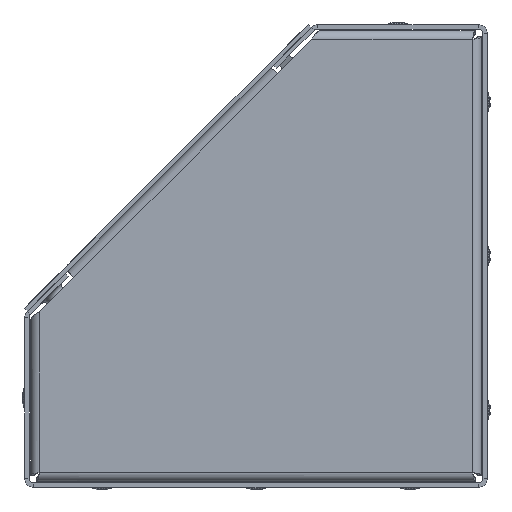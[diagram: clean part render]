
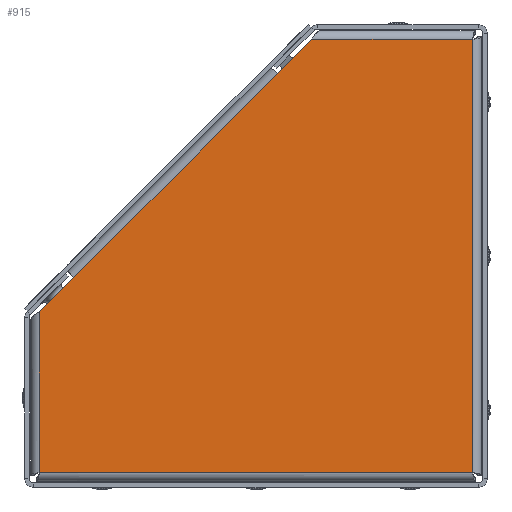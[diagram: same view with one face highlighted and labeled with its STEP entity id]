
A CAD part, left-side view. The second image highlights one B-rep face of the part: STEP entity #915.
In plain terms, the highlighted planar face has unit normal (-1, 0, 0) as drawn and (1, 0, 0) by its records, which use the part's own axes.
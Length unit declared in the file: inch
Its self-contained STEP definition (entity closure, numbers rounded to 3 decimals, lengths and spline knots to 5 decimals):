
#53 = DIRECTION ( 'NONE',  ( 0., -0.707, 0.707 ) ) ;
#69 = DIRECTION ( 'NONE',  ( 0., 0., -1. ) ) ;
#168 = VERTEX_POINT ( 'NONE', #1986 ) ;
#202 = PLANE ( 'NONE',  #9557 ) ;
#208 = EDGE_CURVE ( 'NONE', #9694, #168, #4417, .T. ) ;
#825 = ORIENTED_EDGE ( 'NONE', *, *, #8920, .T. ) ;
#915 = ADVANCED_FACE ( 'NONE', ( #7280 ), #202, .T. ) ;
#1064 = DIRECTION ( 'NONE',  ( 1., 0., 0. ) ) ;
#1070 = VERTEX_POINT ( 'NONE', #2967 ) ;
#1072 = VERTEX_POINT ( 'NONE', #8852 ) ;
#1197 = LINE ( 'NONE', #5761, #5469 ) ;
#1839 = VECTOR ( 'NONE', #7372, 39.37008 ) ;
#1986 = CARTESIAN_POINT ( 'NONE',  ( 0., 5.62, -5.62 ) ) ;
#2308 = CARTESIAN_POINT ( 'NONE',  ( 0., 5.62, -3.53199 ) ) ;
#2564 = ORIENTED_EDGE ( 'NONE', *, *, #9637, .T. ) ;
#2967 = CARTESIAN_POINT ( 'NONE',  ( 0., 5.17275, -3.08474 ) ) ;
#3008 = ORIENTED_EDGE ( 'NONE', *, *, #3470, .T. ) ;
#3046 = ORIENTED_EDGE ( 'NONE', *, *, #5643, .T. ) ;
#3193 = DIRECTION ( 'NONE',  ( 0., -1., 0. ) ) ;
#3442 = VECTOR ( 'NONE', #5054, 39.37008 ) ;
#3470 = EDGE_CURVE ( 'NONE', #4473, #9694, #7746, .T. ) ;
#3493 = VERTEX_POINT ( 'NONE', #5056 ) ;
#3558 = VERTEX_POINT ( 'NONE', #8623 ) ;
#3923 = DIRECTION ( 'NONE',  ( 0., 0., 1. ) ) ;
#4067 = DIRECTION ( 'NONE',  ( 0., 1., 0. ) ) ;
#4417 = LINE ( 'NONE', #8239, #8613 ) ;
#4447 = ORIENTED_EDGE ( 'NONE', *, *, #9149, .T. ) ;
#4473 = VERTEX_POINT ( 'NONE', #8067 ) ;
#5054 = DIRECTION ( 'NONE',  ( 0., -0.707, 0.707 ) ) ;
#5056 = CARTESIAN_POINT ( 'NONE',  ( 0., 2.53526, -0.44725 ) ) ;
#5469 = VECTOR ( 'NONE', #3193, 39.37008 ) ;
#5538 = ORIENTED_EDGE ( 'NONE', *, *, #7006, .T. ) ;
#5643 = EDGE_CURVE ( 'NONE', #3493, #3558, #10812, .T. ) ;
#5761 = CARTESIAN_POINT ( 'NONE',  ( 0., 2.08801, 0. ) ) ;
#5915 = VECTOR ( 'NONE', #3923, 39.37008 ) ;
#5959 = LINE ( 'NONE', #9223, #3442 ) ;
#6050 = CARTESIAN_POINT ( 'NONE',  ( 0., 0., 0. ) ) ;
#6536 = ORIENTED_EDGE ( 'NONE', *, *, #208, .T. ) ;
#7005 = DIRECTION ( 'NONE',  ( 0., 0., -1. ) ) ;
#7006 = EDGE_CURVE ( 'NONE', #1072, #1070, #5959, .T. ) ;
#7280 = FACE_OUTER_BOUND ( 'NONE', #7953, .T. ) ;
#7372 = DIRECTION ( 'NONE',  ( 0., -0.707, 0.707 ) ) ;
#7746 = LINE ( 'NONE', #6050, #9995 ) ;
#7953 = EDGE_LOOP ( 'NONE', ( #2564, #3008, #6536, #825, #5538, #4447, #3046 ) ) ;
#8067 = CARTESIAN_POINT ( 'NONE',  ( 0., 0., 0. ) ) ;
#8086 = LINE ( 'NONE', #10642, #5915 ) ;
#8239 = CARTESIAN_POINT ( 'NONE',  ( 0., 0., -5.62 ) ) ;
#8613 = VECTOR ( 'NONE', #4067, 39.37008 ) ;
#8623 = CARTESIAN_POINT ( 'NONE',  ( 0., 2.08801, 0. ) ) ;
#8852 = CARTESIAN_POINT ( 'NONE',  ( 0., 5.62, -3.53199 ) ) ;
#8920 = EDGE_CURVE ( 'NONE', #168, #1072, #8086, .T. ) ;
#9149 = EDGE_CURVE ( 'NONE', #1070, #3493, #10730, .T. ) ;
#9223 = CARTESIAN_POINT ( 'NONE',  ( 0., 5.62, -3.53199 ) ) ;
#9557 = AXIS2_PLACEMENT_3D ( 'NONE', #10342, #1064, #7005 ) ;
#9637 = EDGE_CURVE ( 'NONE', #3558, #4473, #1197, .T. ) ;
#9694 = VERTEX_POINT ( 'NONE', #10844 ) ;
#9995 = VECTOR ( 'NONE', #69, 39.37008 ) ;
#10202 = CARTESIAN_POINT ( 'NONE',  ( 0., 5.17275, -3.08474 ) ) ;
#10342 = CARTESIAN_POINT ( 'NONE',  ( 0., 0., 0. ) ) ;
#10464 = VECTOR ( 'NONE', #53, 39.37008 ) ;
#10642 = CARTESIAN_POINT ( 'NONE',  ( 0., 5.62, -5.62 ) ) ;
#10730 = LINE ( 'NONE', #10202, #10464 ) ;
#10812 = LINE ( 'NONE', #2308, #1839 ) ;
#10844 = CARTESIAN_POINT ( 'NONE',  ( 0., 0., -5.62 ) ) ;
